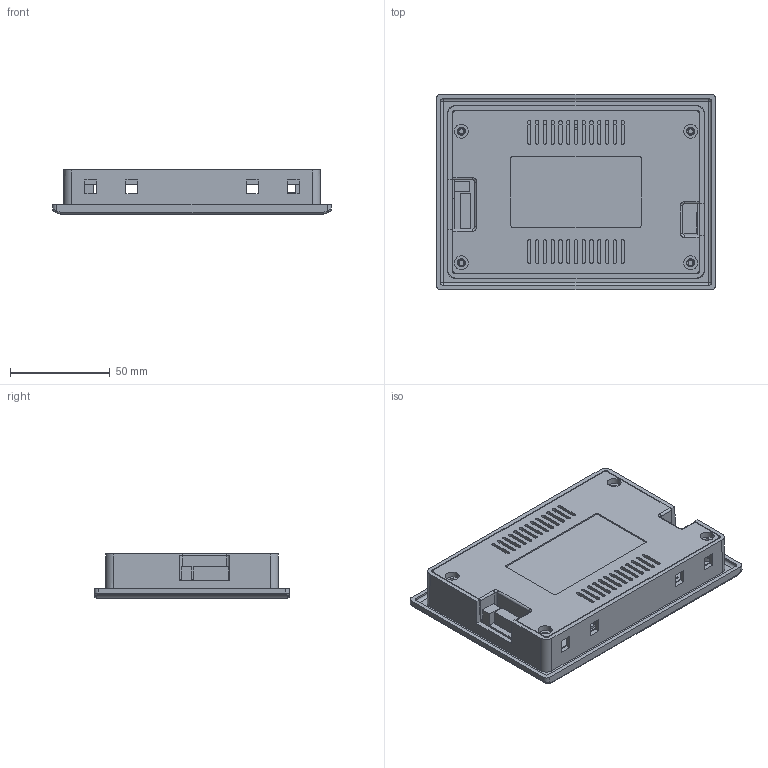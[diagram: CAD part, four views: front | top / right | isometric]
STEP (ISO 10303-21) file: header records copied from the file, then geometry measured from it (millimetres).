
FILE_DESCRIPTION((''),'2;1');
FILE_NAME('3D-DMT4482700C0043-15WT','2018-12-07T',('Administrator'),(''),'PRO/ENGINEER BY PARAMETRIC TECHNOLOGY CORPORATION, 2011310','PRO/ENGINEER BY PARAMETRIC TECHNOLOGY CORPORATION, 2011310','');
FILE_SCHEMA(('CONFIG_CONTROL_DESIGN','SHAPE_APPEARANCE_LAYERS_GROUPS'));
Length unit declared in the file: millimetre
Products named in the file (1): 3D-DMT4482700C0043-15WT
Bounding box: 140 x 98 x 22.1 mm (x, y, z)
Volume: 122736.9 mm3; surface area: 109075.6 mm2
Topology: 1 solids, 4 shells, 656 faces, 1990 edges, 1306 vertices
Faces by surface type: plane 474, cylinder 158, cone 8, torus 8, sphere 4, bspline 4
Entity records: 22731 total; most frequent: CARTESIAN_POINT 4272, ORIENTED_EDGE 3920, DIRECTION 3596, EDGE_CURVE 1960, VECTOR 1546, LINE 1546, VERTEX_POINT 1280, AXIS2_PLACEMENT_3D 1025
